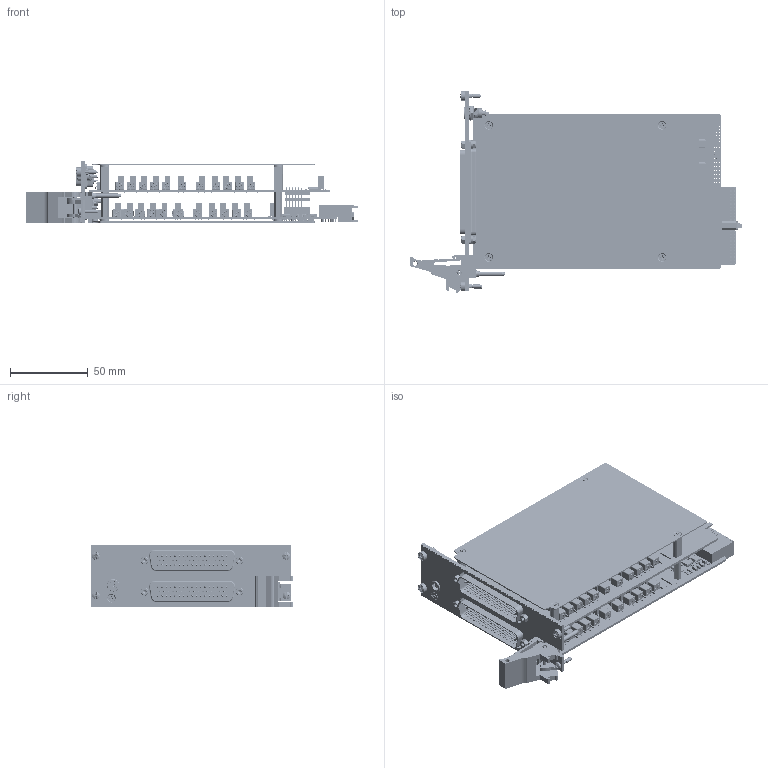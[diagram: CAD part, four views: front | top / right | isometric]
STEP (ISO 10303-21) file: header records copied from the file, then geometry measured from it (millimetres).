
FILE_DESCRIPTION (( 'STEP AP214' ), '1' );
FILE_NAME ('40-321-126 High Voltage Multiplexer Quad 11-Channel 2-Pole.step', '2023-11-13T13:26:43', ( '' ), ( '' ), 'SwSTEP 2.0', 'SolidWorks 2023', '' );
FILE_SCHEMA (( 'AUTOMOTIVE_DESIGN' ));
Length unit declared in the file: millimetre
Products named in the file (83): C-CN-355 Compact pci connector 3_Render; C-RS-1487 RES 100k 0.1W 25PPM 0603; P-FX-017 M2,5 Collar Posi-Slot Screw; C-CP-141 CAP 10UF 1206 35V X5R 10%; C-RS-256 Res 100K (0603) 1.16W 1% 100pp SMT; A-PC-1219-126 High Voltage Multiplexer Quad 11-Channel 2-Pole Daughter; C-CN-1609 1x4-Way PICBLADE ST M Header; A-PC-1218-125-# High Voltage Multiplexer Quad 11-Channel 2-Pole Mother; C-IC-442 VSSOP 8PIN SD; C-FX-1236 Custom 16mm x 6mm Dia M2.5 Pillar; C-CN-073 Screwlock 8mm Screw Lenght_0.95mm Space; C-PC-1219 1kV 2-Pole MUX Daughter; C-RS-756 RES 0R 0603  200PPM; C-SC-137 TVS DIODE ARRAY; C-FX-101 Screw, M2.5 x 6, Pan Hd, Pozi, Steel, BZP; L-FP-1178-HI-# PXI 2 Slot 50-Way D-Type HV Front Panel Label; C-RS-148 Res 1K 0603 1-16W 1% 100PPM; C-CN-073-SCREW 4-40 UNC Screwlock_5mm Hexagonal spacer; C-BP-018 PXI 3U x 2 Slot Blank Panel; C-IC-458 LDO VOLTAGE REGULATOR 1.2V SOT; C-CN-1107 2x8 Way Header ST F_LEAD STYLE1PLATINGLPOSITIONS8ROWD; C-IC-548 1-Bit Flip-Flop 8-Pin SM8; C-CN-073 WASHER plain; C-MS-1047 BEAD 600R 0402 0.5A 0R34 25%; C-IC-441 1kV Hex Digital Isolator; C-CN-107-BODY; C-CN-1587-L1 2x2 Interlock Connector Socket + PCB Assembly.SLDPRT; A-FP-1178-HI PXI 2 Slot 50-Way D-Type HV Front Panel Assembly; C-FX-165 Handle Body; C-IC-158 Buffer 3-State SOT-23 5-Pin; C-IC-546 24 BIT BUS SWITCH 56PIN TVSOP; C-CN-1605-Body 2 x 8 Way 15.1mm Thru Hole Flexible Board Stacker; C-FX-165 Handle Pin; C-CN-1587 2x2 Interlock Connector Socket_3mm Panel; C-CN-916 50-way D-connector, male, solder bucket; C-CP-130 CAP 1uF CERAMIC SMT 0603; L-FX-165 PXI Handle Label; C-RS-659 RES NW 4K7 4RES 8PINS SMT1206; C-FX-1235 16mm x M2.5 M-F Hex Pillar; C-RS-521 Res 120R (0603) 1-16W 1% 100pp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
Assembly tree (501 placements, depth 5):
  40-321-126 High Voltage Multiplexer Quad 11-Channel 2-Pole
    A-PC-1218-125 High Voltage Multiplexer Quad 11-Channel 2-Pole Mother
      A-PC-1218-125-# High Voltage Multiplexer Quad 11-Channel 2-Pole Mother
        C-PC-1218 1kV 2-Pole MUX Mother
        C-CN-1071
          C-CN-107-BODY
          C-CN-107-PIN  x8
        C-IC-441 1kV Hex Digital Isolator  x2
        C-RS-190 Res 0R0 SIZE 0603 SMT  x4
        C-RS-256 Res 100K (0603) 1.16W 1% 100pp SMT
        C-CP-099 CAP 0.1uF 16V 0402 SMT  x44
        C-CN-1609 1x4-Way PICBLADE ST M Header
        C-IC-489 F-RAM Semiconductor Serial-I2C FRAM Memory 512kbit 2-3.6 V 8-Pin SOIC
        C-CP-034  x21
        C-IC-310 SOT353 SD
        C-IC-158 Buffer 3-State SOT-23 5-Pin
        C-IC-548 1-Bit Flip-Flop 8-Pin SM8
        C-RS-152 Res 10K 0603 1-16W 1% 300PPM  x4
        C-RS-1487 RES 100k 0.1W 25PPM 0603
        C-RS-147 Res 100R 0603 1-16W 1% 100PPM  x2
        C-SC-137 TVS DIODE ARRAY
        C-CP-033 Capacitor 10nF SMT 0603
        C-RL-356 High Voltage Relay  x23
        C-IC-426 32-Flash Memory Standard Serial NOR 32Mbit SPI WSOIC-8
        C-IC-442 VSSOP 8PIN SD
        C-IC-425 SOICN 8PIN SD
        C-IC-458 LDO VOLTAGE REGULATOR 1.2V SOT
        C-IC-535 16-Channel Relay Driver  x2
        C-IC-546 24 BIT BUS SWITCH 56PIN TVSOP  x2
        C-RS-148 Res 1K 0603 1-16W 1% 100PPM  x2
        C-RS-659 RES NW 4K7 4RES 8PINS SMT1206  x4
        C-RS-756 RES 0R 0603  200PPM  x2
        C-RS-521 Res 120R (0603) 1-16W 1% 100pp
        C-SC-146 Dual Transistor SOT-14  x2
        C-MS-1047 BEAD 600R 0402 0.5A 0R34 25%  x24
        C-MS-1048 5-Hole Ferrite Bead  x48
        C-MS-803 BEAD 120R 0603 2A 0R05 25%  x2
        C-CP-239  Power Line Filter  x3
        C-CP-124 CAP 10nF CERAMIC SMT 0402  x53
        C-CP-175 CAP 22uF 1206 25V X5R 10%  x2
        C-CP-130 CAP 1uF CERAMIC SMT 0603  x2
        C-CP-139 CAP 4.7UF 1206 16V X7R 10%  x2
        C-CP-141 CAP 10UF 1206 35V X5R 10%  x7
        C-CN-355 Compact pci connector 3_Render
        C-CN-1107 2x8 Way Header ST F_LEAD STYLE1PLATINGLPOSITIONS8ROWD
        C-IC-369 FPGA 17000 Cells 65nm Technology 1.2V 256-Pin FTBGA
    A-PC-1219-126 High Voltage Multiplexer Quad 11-Channel 2-Pole Daughter
      A-PC-1219-126-# High Voltage Multiplexer Quad 11-Channel 2-Pole Daughter
        C-PC-1219 1kV 2-Pole MUX Daughter
        C-CN-1605 2 x 8 Way 15.1mm Thru Hole Flexible Board Stacker
          C-CN-1605-Spacer 2 x 8 Way 15.1mm Thru Hole Flexible Board Stacker
          C-CN-1605-Body 2 x 8 Way 15.1mm Thru Hole Flexible Board Stacker
          C-CN-1605-Pins 2 x 8 Way 15.1mm Thru Hole Flexible Board Stacker
        C-RS-190 Res 0R0 SIZE 0603 SMT  x2
        C-RL-356 High Voltage Relay  x23
        C-IC-535 16-Channel Relay Driver  x2
        C-MS-1047 BEAD 600R 0402 0.5A 0R34 25%  x24
        C-MS-1048 5-Hole Ferrite Bead  x48
        C-CP-124 CAP 10nF CERAMIC SMT 0402  x24
        C-CP-099 CAP 0.1uF 16V 0402 SMT  x26
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Bounding box: 213.67 x 129.68 x 40 mm (x, y, z)
Volume: 150097 mm3; surface area: 223843.7 mm2
Topology: 498 solids, 550 shells, 47604 faces, 121191 edges, 76309 vertices
Faces by surface type: plane 24546, cylinder 13736, torus 5434, bspline 2406, sphere 1030, cone 452
Entity records: 652273 total; most frequent: CARTESIAN_POINT 104347, DIRECTION 85197, ORIENTED_EDGE 84556, EDGE_CURVE 42280, LINE 30331, VECTOR 30331, AXIS2_PLACEMENT_3D 27433, VERTEX_POINT 27238
